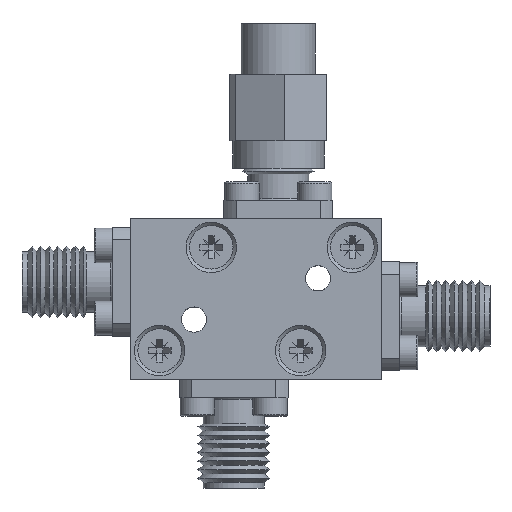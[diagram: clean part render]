
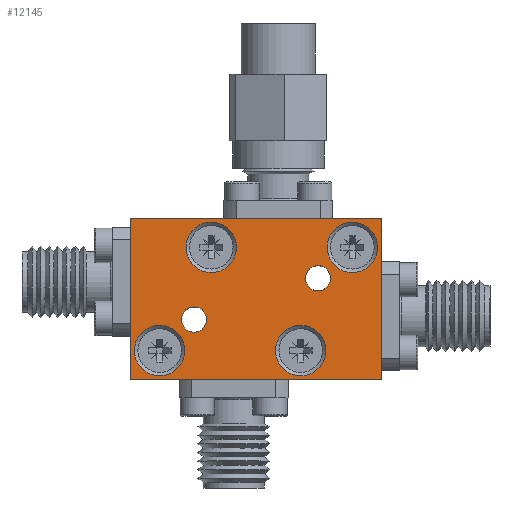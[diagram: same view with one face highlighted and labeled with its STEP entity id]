
A CAD part, top view. The second image highlights one B-rep face of the part: STEP entity #12145.
In plain terms, the highlighted planar face has unit normal (0, 0, 1).
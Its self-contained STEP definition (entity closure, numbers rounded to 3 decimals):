
#117=LINE('',#16142,#745);
#118=LINE('',#16150,#746);
#119=LINE('',#16152,#747);
#120=LINE('',#16159,#748);
#121=LINE('',#16161,#749);
#122=LINE('',#16163,#750);
#745=VECTOR('',#13696,1000.);
#746=VECTOR('',#13697,1000.);
#747=VECTOR('',#13698,1000.);
#748=VECTOR('',#13699,1000.);
#749=VECTOR('',#13700,1000.);
#750=VECTOR('',#13701,1000.);
#1373=PLANE('',#12780);
#1730=B_SPLINE_CURVE_WITH_KNOTS('',3,(#16145,#16146,#16147,#16148),
 .UNSPECIFIED.,.F.,.F.,(4,4),(0.,1.),.UNSPECIFIED.);
#1731=B_SPLINE_CURVE_WITH_KNOTS('',3,(#16154,#16155,#16156,#16157),
 .UNSPECIFIED.,.F.,.F.,(4,4),(0.,1.),.UNSPECIFIED.);
#1955=ORIENTED_EDGE('',*,*,#4049,.T.);
#1956=ORIENTED_EDGE('',*,*,#4050,.F.);
#1957=ORIENTED_EDGE('',*,*,#4051,.T.);
#1958=ORIENTED_EDGE('',*,*,#4052,.T.);
#1959=ORIENTED_EDGE('',*,*,#4053,.F.);
#1960=ORIENTED_EDGE('',*,*,#4054,.T.);
#1961=ORIENTED_EDGE('',*,*,#4055,.T.);
#1962=ORIENTED_EDGE('',*,*,#4056,.T.);
#1963=ORIENTED_EDGE('',*,*,#4042,.T.);
#1964=ORIENTED_EDGE('',*,*,#4040,.T.);
#1965=ORIENTED_EDGE('',*,*,#4038,.T.);
#1966=ORIENTED_EDGE('',*,*,#4036,.T.);
#1967=ORIENTED_EDGE('',*,*,#4046,.F.);
#1968=ORIENTED_EDGE('',*,*,#4043,.F.);
#4036=EDGE_CURVE('',#5083,#5083,#5904,.T.);
#4038=EDGE_CURVE('',#5085,#5085,#5906,.T.);
#4040=EDGE_CURVE('',#5087,#5087,#5908,.T.);
#4042=EDGE_CURVE('',#5089,#5089,#5910,.T.);
#4043=EDGE_CURVE('',#5090,#5090,#5911,.T.);
#4046=EDGE_CURVE('',#5093,#5093,#5912,.T.);
#4049=EDGE_CURVE('',#5096,#5097,#117,.T.);
#4050=EDGE_CURVE('',#5098,#5097,#1730,.F.);
#4051=EDGE_CURVE('',#5098,#5099,#118,.T.);
#4052=EDGE_CURVE('',#5099,#5100,#119,.T.);
#4053=EDGE_CURVE('',#5101,#5100,#1731,.F.);
#4054=EDGE_CURVE('',#5101,#5102,#120,.T.);
#4055=EDGE_CURVE('',#5102,#5103,#121,.T.);
#4056=EDGE_CURVE('',#5103,#5096,#122,.T.);
#5083=VERTEX_POINT('',#16087);
#5085=VERTEX_POINT('',#16092);
#5087=VERTEX_POINT('',#16097);
#5089=VERTEX_POINT('',#16102);
#5090=VERTEX_POINT('',#16105);
#5093=VERTEX_POINT('',#16124);
#5096=VERTEX_POINT('',#16143);
#5097=VERTEX_POINT('',#16144);
#5098=VERTEX_POINT('',#16149);
#5099=VERTEX_POINT('',#16151);
#5100=VERTEX_POINT('',#16153);
#5101=VERTEX_POINT('',#16158);
#5102=VERTEX_POINT('',#16160);
#5103=VERTEX_POINT('',#16162);
#5904=CIRCLE('',#12766,2.2);
#5906=CIRCLE('',#12769,2.2);
#5908=CIRCLE('',#12772,2.2);
#5910=CIRCLE('',#12775,2.2);
#5911=CIRCLE('',#12777,1.1);
#5912=CIRCLE('',#12779,1.1);
#6232=EDGE_LOOP('',(#1955,#1956,#1957,#1958,#1959,#1960,#1961,#1962));
#6233=EDGE_LOOP('',(#1963));
#6234=EDGE_LOOP('',(#1964));
#6235=EDGE_LOOP('',(#1965));
#6236=EDGE_LOOP('',(#1966));
#6237=EDGE_LOOP('',(#1967));
#6238=EDGE_LOOP('',(#1968));
#7100=FACE_BOUND('',#6232,.T.);
#7101=FACE_BOUND('',#6233,.T.);
#7102=FACE_BOUND('',#6234,.T.);
#7103=FACE_BOUND('',#6235,.T.);
#7104=FACE_BOUND('',#6236,.T.);
#7105=FACE_BOUND('',#6237,.T.);
#7106=FACE_BOUND('',#6238,.T.);
#12145=ADVANCED_FACE('',(#7100,#7101,#7102,#7103,#7104,#7105,#7106),#1373,
 .T.);
#12766=AXIS2_PLACEMENT_3D('',#16086,#13666,#13667);
#12769=AXIS2_PLACEMENT_3D('',#16091,#13672,#13673);
#12772=AXIS2_PLACEMENT_3D('',#16096,#13678,#13679);
#12775=AXIS2_PLACEMENT_3D('',#16101,#13684,#13685);
#12777=AXIS2_PLACEMENT_3D('',#16104,#13688,#13689);
#12779=AXIS2_PLACEMENT_3D('',#16123,#13692,#13693);
#12780=AXIS2_PLACEMENT_3D('',#16141,#13694,#13695);
#13666=DIRECTION('',(0.,0.,-1.));
#13667=DIRECTION('',(0.,1.,0.));
#13672=DIRECTION('',(0.,0.,-1.));
#13673=DIRECTION('',(0.,1.,0.));
#13678=DIRECTION('',(0.,0.,-1.));
#13679=DIRECTION('',(0.,1.,0.));
#13684=DIRECTION('',(0.,0.,-1.));
#13685=DIRECTION('',(0.,1.,0.));
#13688=DIRECTION('',(0.,0.,1.));
#13689=DIRECTION('',(1.,0.,0.));
#13692=DIRECTION('',(0.,0.,1.));
#13693=DIRECTION('',(1.,0.,0.));
#13694=DIRECTION('',(0.,0.,1.));
#13695=DIRECTION('',(1.,0.,0.));
#13696=DIRECTION('',(0.,-1.,0.));
#13697=DIRECTION('',(0.,-1.,0.));
#13698=DIRECTION('',(1.,0.,0.));
#13699=DIRECTION('',(1.,0.,0.));
#13700=DIRECTION('',(0.,1.,0.));
#13701=DIRECTION('',(-1.,0.,0.));
#16086=CARTESIAN_POINT('',(-8.4,-4.5,4.));
#16087=CARTESIAN_POINT('',(-8.4,-2.3,4.));
#16091=CARTESIAN_POINT('',(3.9,-4.5,4.));
#16092=CARTESIAN_POINT('',(3.9,-2.3,4.));
#16096=CARTESIAN_POINT('',(8.4,4.5,4.));
#16097=CARTESIAN_POINT('',(8.4,6.7,4.));
#16101=CARTESIAN_POINT('',(-3.9,4.5,4.));
#16102=CARTESIAN_POINT('',(-3.9,6.7,4.));
#16104=CARTESIAN_POINT('',(5.4,1.801,4.));
#16105=CARTESIAN_POINT('',(6.5,1.801,4.));
#16123=CARTESIAN_POINT('',(-5.4,-1.798,4.));
#16124=CARTESIAN_POINT('',(-4.3,-1.798,4.));
#16141=CARTESIAN_POINT('',(0.,0.,4.));
#16142=CARTESIAN_POINT('',(-10.9,7.,4.));
#16143=CARTESIAN_POINT('',(-10.9,7.,4.));
#16144=CARTESIAN_POINT('',(-10.9,5.162,4.));
#16145=CARTESIAN_POINT('',(-10.9,5.162,4.));
#16146=CARTESIAN_POINT('',(-10.9,2.718,4.));
#16147=CARTESIAN_POINT('',(-10.9,0.274,4.));
#16148=CARTESIAN_POINT('',(-10.9,-2.17,4.));
#16149=CARTESIAN_POINT('',(-10.9,-2.17,4.));
#16150=CARTESIAN_POINT('',(-10.9,7.,4.));
#16151=CARTESIAN_POINT('',(-10.9,-7.,4.));
#16152=CARTESIAN_POINT('',(-10.9,-7.,4.));
#16153=CARTESIAN_POINT('',(-5.609,-7.,4.));
#16154=CARTESIAN_POINT('',(-5.609,-7.,4.));
#16155=CARTESIAN_POINT('',(-3.165,-7.,4.));
#16156=CARTESIAN_POINT('',(-0.722,-7.,4.));
#16157=CARTESIAN_POINT('',(1.722,-7.,4.));
#16158=CARTESIAN_POINT('',(1.722,-7.,4.));
#16159=CARTESIAN_POINT('',(-10.9,-7.,4.));
#16160=CARTESIAN_POINT('',(10.9,-7.,4.));
#16161=CARTESIAN_POINT('',(10.9,-7.,4.));
#16162=CARTESIAN_POINT('',(10.9,7.,4.));
#16163=CARTESIAN_POINT('',(10.9,7.,4.));
